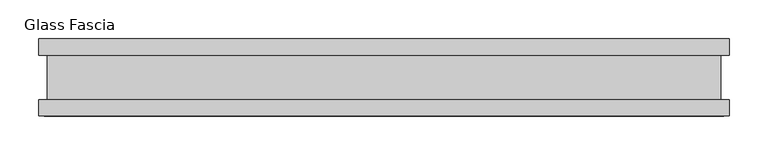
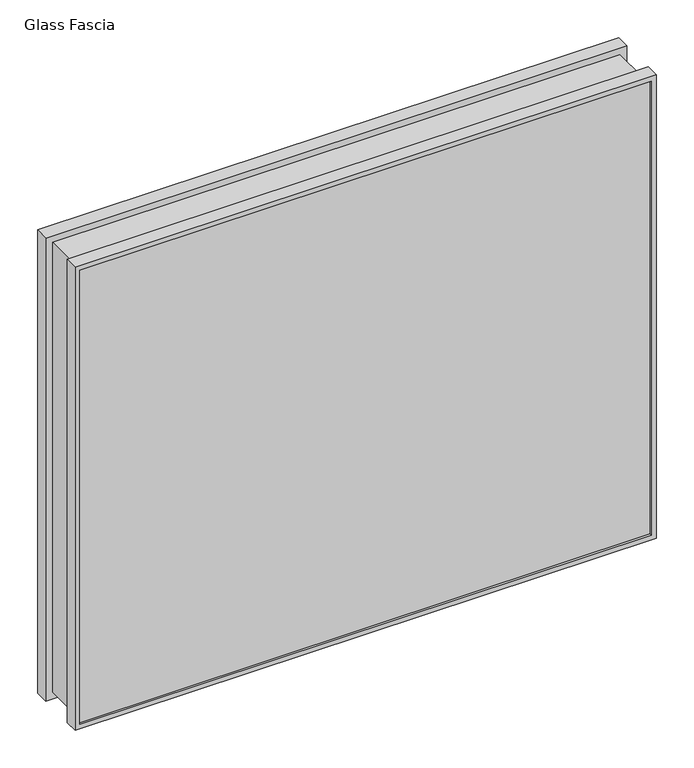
"""IFC4 building model written with IfcOpenShell, lengths in millimetres: proxy geometry, Panel-Fascia-Teknion-Altos-Glass : Glass Fascia."""

from ifc_helpers import new_model, si_unit, frame, origin, place, context, project, spatial, polyline, ellipse_curve, outline, extrude, source, transform, mapped, element, save
from ifc_brep_helpers import plane_surface, cylinder_surface, advanced_brep


def glass_fascia_921fc641(model_context):
    return source(origin(), model_context, "Body", "SolidModel", [
        advanced_brep(
        [(447.0670757, 50.0558594, 756.793), (447.0670757, 28.2698798, 756.793), (447.0670757, 28.2698798, 3.175), (447.0670757, 50.0558594, 3.175), (439.6318679, 47.1322551, 749.3577922), (439.6318679, 50.0558594, 749.3577922), (439.6318679, 50.0558594, 10.6102078), (439.6318679, 47.1322551, 10.6102078), (444.9145495, 41.1791301, 754.6404737), (444.9145495, 47.1322551, 754.6404737), (444.9145495, 47.1322551, 5.3275263), (444.9145495, 41.1791301, 5.3275263), (439.1096603, -40.9277344, 748.8355845), (439.1096603, 41.1791301, 748.8355845), (439.1096603, 41.1791301, 11.1324155), (439.1096603, -40.9277344, 11.1324155), (444.9145495, -46.8808594, 754.6404737), (444.9145495, -40.9277344, 754.6404737), (444.9145495, -40.9277344, 5.3275263), (444.9145495, -46.8808594, 5.3275263), (439.6318679, -50.0558594, 749.3577922), (439.6318679, -46.8808594, 749.3577922), (439.6318679, -46.8808594, 10.6102078), (439.6318679, -50.0558594, 10.6102078), (447.0670757, -28.8801202, 756.793), (447.0670757, -50.0558594, 756.793), (447.0670757, -50.0558594, 3.175), (447.0670757, -28.8801202, 3.175), (436.2152344, 28.2698798, 745.9411586), (436.2152344, -28.8801202, 745.9411586), (436.2152344, -28.8801202, 14.0268414), (436.2152344, 28.2698798, 14.0268414), (-447.0670757, 28.2698798, 3.175), (-447.0670757, 50.0558594, 3.175), (-439.6318679, 50.0558594, 10.6102078), (-439.6318679, 47.1322551, 10.6102078), (-444.9145495, 47.1322551, 5.3275263), (-444.9145495, 41.1791301, 5.3275263), (-439.1096603, 41.1791301, 11.1324155), (-439.1096603, -40.9277344, 11.1324155), (-444.9145495, -40.9277344, 5.3275263), (-444.9145495, -46.8808594, 5.3275263), (-439.6318679, -46.8808594, 10.6102078), (-439.6318679, -50.0558594, 10.6102078), (-447.0670757, -50.0558594, 3.175), (-447.0670757, -28.8801202, 3.175), (-436.2152344, -28.8801202, 14.0268414), (-436.2152344, 28.2698798, 14.0268414), (-447.0670757, 28.2698798, 756.793), (-447.0670757, 50.0558594, 756.793), (-439.6318679, 50.0558594, 749.3577922), (-439.6318679, 47.1322551, 749.3577922), (-444.9145495, 47.1322551, 754.6404737), (-444.9145495, 41.1791301, 754.6404737), (-439.1096603, 41.1791301, 748.8355845), (-439.1096603, -40.9277344, 748.8355845), (-444.9145495, -40.9277344, 754.6404737), (-444.9145495, -46.8808594, 754.6404737), (-439.6318679, -46.8808594, 749.3577922), (-439.6318679, -50.0558594, 749.3577922), (-447.0670757, -50.0558594, 756.793), (-447.0670757, -28.8801202, 756.793), (-436.2152344, -28.8801202, 745.9411586), (-436.2152344, 28.2698798, 745.9411586)],
        [
            (0, 1),
            (1, 2),
            (2, 3),
            (3, 0),
            (4, 5),
            (5, 6),
            (6, 7),
            (7, 4),
            (8, 9),
            (9, 10),
            (10, 11),
            (11, 8),
            (12, 13, ellipse_curve(frame((478.4955026, 0.1256979, 788.2214268), z_axis=(0.7071067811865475, 0.0, -0.7071067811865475), x_axis=(0.7071067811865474, 0.0, 0.7071067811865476)), 80.4565581, 56.8913778)),
            (13, 14),
            (14, 15, ellipse_curve(frame((478.4955026, 0.1256979, -28.2534268), z_axis=(0.7071067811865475, 0.0, 0.7071067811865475), x_axis=(-0.7071067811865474, 0.0, 0.7071067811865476)), 80.4565581, 56.8913778)),
            (15, 12),
            (16, 17),
            (17, 18),
            (18, 19),
            (19, 16),
            (20, 21),
            (21, 22),
            (22, 23),
            (23, 20),
            (24, 25),
            (25, 26),
            (26, 27),
            (27, 24),
            (28, 29),
            (29, 30),
            (30, 31),
            (31, 28),
            (2, 32),
            (32, 33),
            (33, 3),
            (6, 34),
            (34, 35),
            (35, 7),
            (10, 36),
            (36, 37),
            (37, 11),
            (14, 38),
            (38, 39, ellipse_curve(frame((-478.4955026, 0.1256979, -28.2534268), z_axis=(0.7071067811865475, 0.0, -0.7071067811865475), x_axis=(0.7071067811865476, 0.0, 0.7071067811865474)), 80.4565581, 56.8913778)),
            (39, 15),
            (18, 40),
            (40, 41),
            (41, 19),
            (22, 42),
            (42, 43),
            (43, 23),
            (26, 44),
            (44, 45),
            (45, 27),
            (30, 46),
            (46, 47),
            (47, 31),
            (32, 48),
            (48, 49),
            (49, 33),
            (34, 50),
            (50, 51),
            (51, 35),
            (36, 52),
            (52, 53),
            (53, 37),
            (38, 54),
            (54, 55, ellipse_curve(frame((-478.4955026, 0.1256979, 788.2214268), z_axis=(-0.7071067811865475, 0.0, -0.7071067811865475), x_axis=(0.7071067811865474, 0.0, -0.7071067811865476)), 80.4565581, 56.8913778)),
            (55, 39),
            (40, 56),
            (56, 57),
            (57, 41),
            (42, 58),
            (58, 59),
            (59, 43),
            (44, 60),
            (60, 61),
            (61, 45),
            (46, 62),
            (62, 63),
            (63, 47),
            (48, 1),
            (0, 49),
            (5, 50),
            (4, 51),
            (9, 52),
            (8, 53),
            (13, 54),
            (12, 55),
            (17, 56),
            (16, 57),
            (21, 58),
            (20, 59),
            (25, 60),
            (24, 61),
            (29, 62),
            (28, 63),
        ],
        [
            plane_surface(frame((447.0670757, 28.2698798, 756.793), z_axis=(1.0, 0.0, 0.0), x_axis=(0.0, 0.0, -1.0))),
            plane_surface(frame((439.6318679, 50.0558594, 749.3577922), z_axis=(-1.0, 0.0, 0.0), x_axis=(0.0, 0.0, -1.0))),
            plane_surface(frame((444.9145495, 47.1322551, 754.6404737), z_axis=(-1.0, 0.0, 0.0), x_axis=(0.0, 0.0, -1.0))),
            cylinder_surface(frame((478.4955026, 0.1256979, 756.793), z_axis=(0.0, 0.0, 1.0), x_axis=(1.0, 0.0, 0.0)), 56.8913778),
            plane_surface(frame((444.9145495, -40.9277344, 754.6404737), z_axis=(-1.0, 0.0, 0.0), x_axis=(0.0, 0.0, -1.0))),
            plane_surface(frame((439.6318679, -46.8808594, 749.3577922), z_axis=(-1.0, 0.0, 0.0), x_axis=(0.0, 0.0, -1.0))),
            plane_surface(frame((447.0670757, -50.0558594, 756.793), z_axis=(1.0, 0.0, 0.0), x_axis=(0.0, 0.0, -1.0))),
            plane_surface(frame((436.2152344, -28.8801202, 745.9411586), z_axis=(1.0, 0.0, 0.0), x_axis=(0.0, 0.0, -1.0))),
            plane_surface(frame((447.0670757, 28.2698798, 3.175), z_axis=(0.0, 0.0, -1.0), x_axis=(-1.0, 0.0, 0.0))),
            plane_surface(frame((439.6318679, 50.0558594, 10.6102078), z_axis=(0.0, 0.0, 1.0), x_axis=(-1.0, 0.0, 0.0))),
            plane_surface(frame((444.9145495, 47.1322551, 5.3275263), z_axis=(0.0, 0.0, 1.0), x_axis=(-1.0, 0.0, 0.0))),
            cylinder_surface(frame((447.0670757, 0.1256979, -28.2534268), z_axis=(1.0, 0.0, 0.0), x_axis=(0.0, 0.0, -1.0)), 56.8913778),
            plane_surface(frame((444.9145495, -40.9277344, 5.3275263), z_axis=(0.0, 0.0, 1.0), x_axis=(-1.0, 0.0, 0.0))),
            plane_surface(frame((439.6318679, -46.8808594, 10.6102078), z_axis=(0.0, 0.0, 1.0), x_axis=(-1.0, 0.0, 0.0))),
            plane_surface(frame((447.0670757, -50.0558594, 3.175), z_axis=(0.0, 0.0, -1.0), x_axis=(-1.0, 0.0, 0.0))),
            plane_surface(frame((436.2152344, -28.8801202, 14.0268414), z_axis=(0.0, 0.0, -1.0), x_axis=(-1.0, 0.0, 0.0))),
            plane_surface(frame((-447.0670757, 28.2698798, 3.175), z_axis=(-1.0, 0.0, 0.0), x_axis=(0.0, 0.0, 1.0))),
            plane_surface(frame((-439.6318679, 50.0558594, 10.6102078), z_axis=(1.0, 0.0, 0.0), x_axis=(0.0, 0.0, 1.0))),
            plane_surface(frame((-444.9145495, 47.1322551, 5.3275263), z_axis=(1.0, 0.0, 0.0), x_axis=(0.0, 0.0, 1.0))),
            cylinder_surface(frame((-478.4955026, 0.1256979, 3.175), z_axis=(0.0, 0.0, -1.0), x_axis=(-1.0, 0.0, 0.0)), 56.8913778),
            plane_surface(frame((-444.9145495, -40.9277344, 5.3275263), z_axis=(1.0, 0.0, 0.0), x_axis=(0.0, 0.0, 1.0))),
            plane_surface(frame((-439.6318679, -46.8808594, 10.6102078), z_axis=(1.0, 0.0, 0.0), x_axis=(0.0, 0.0, 1.0))),
            plane_surface(frame((-447.0670757, -50.0558594, 3.175), z_axis=(-1.0, 0.0, 0.0), x_axis=(0.0, 0.0, 1.0))),
            plane_surface(frame((-436.2152344, -28.8801202, 14.0268414), z_axis=(-1.0, 0.0, 0.0), x_axis=(0.0, 0.0, 1.0))),
            plane_surface(frame((-447.0670757, 28.2698798, 756.793), z_axis=(0.0, 0.0, 1.0), x_axis=(1.0, 0.0, 0.0))),
            plane_surface(frame((-447.0670757, 50.0558594, 756.793), z_axis=(0.0, 1.0, 0.0), x_axis=(1.0, 0.0, 0.0))),
            plane_surface(frame((-439.6318679, 50.0558594, 749.3577922), z_axis=(0.0, 0.0, -1.0), x_axis=(1.0, 0.0, 0.0))),
            plane_surface(frame((-439.6318679, 47.1322551, 749.3577922), z_axis=(0.0, -1.0, 0.0), x_axis=(1.0, 0.0, 0.0))),
            plane_surface(frame((-444.9145495, 47.1322551, 754.6404737), z_axis=(0.0, 0.0, -1.0), x_axis=(1.0, 0.0, 0.0))),
            plane_surface(frame((-444.9145495, 41.1791301, 754.6404737), z_axis=(0.0, 1.0, 0.0), x_axis=(1.0, 0.0, 0.0))),
            cylinder_surface(frame((-447.0670757, 0.1256979, 788.2214268), z_axis=(-1.0, 0.0, 0.0), x_axis=(0.0, 0.0, 1.0)), 56.8913778),
            plane_surface(frame((-439.1096603, -40.9277344, 748.8355845), z_axis=(0.0, -1.0, 0.0), x_axis=(1.0, 0.0, 0.0))),
            plane_surface(frame((-444.9145495, -40.9277344, 754.6404737), z_axis=(0.0, 0.0, -1.0), x_axis=(1.0, 0.0, 0.0))),
            plane_surface(frame((-444.9145495, -46.8808594, 754.6404737), z_axis=(0.0, 1.0, 0.0), x_axis=(1.0, 0.0, 0.0))),
            plane_surface(frame((-439.6318679, -46.8808594, 749.3577922), z_axis=(0.0, 0.0, -1.0), x_axis=(1.0, 0.0, 0.0))),
            plane_surface(frame((-439.6318679, -50.0558594, 749.3577922), z_axis=(0.0, -1.0, 0.0), x_axis=(1.0, 0.0, 0.0))),
            plane_surface(frame((-447.0670757, -50.0558594, 756.793), z_axis=(0.0, 0.0, 1.0), x_axis=(1.0, 0.0, 0.0))),
            plane_surface(frame((-447.0670757, -28.8801202, 756.793), z_axis=(0.0, 1.0, 0.0), x_axis=(1.0, 0.0, 0.0))),
            plane_surface(frame((-436.2152344, -28.8801202, 745.9411586), z_axis=(0.0, 0.0, 1.0), x_axis=(1.0, 0.0, 0.0))),
            plane_surface(frame((-436.2152344, 28.2698798, 745.9411586), z_axis=(0.0, -1.0, 0.0), x_axis=(1.0, 0.0, 0.0))),
        ],
        [
            (0, [[1, 2, 3, 4]]),
            (1, [[5, 6, 7, 8]]),
            (2, [[9, 10, 11, 12]]),
            (3, [[13, 14, 15, 16]]),
            (4, [[17, 18, 19, 20]]),
            (5, [[21, 22, 23, 24]]),
            (6, [[25, 26, 27, 28]]),
            (7, [[29, 30, 31, 32]]),
            (8, [[-3, 33, 34, 35]]),
            (9, [[-7, 36, 37, 38]]),
            (10, [[-11, 39, 40, 41]]),
            (11, [[-15, 42, 43, 44]]),
            (12, [[-19, 45, 46, 47]]),
            (13, [[-23, 48, 49, 50]]),
            (14, [[-27, 51, 52, 53]]),
            (15, [[-31, 54, 55, 56]]),
            (16, [[-34, 57, 58, 59]]),
            (17, [[-37, 60, 61, 62]]),
            (18, [[-40, 63, 64, 65]]),
            (19, [[-43, 66, 67, 68]]),
            (20, [[-46, 69, 70, 71]]),
            (21, [[-49, 72, 73, 74]]),
            (22, [[-52, 75, 76, 77]]),
            (23, [[-55, 78, 79, 80]]),
            (24, [[-58, 81, -1, 82]]),
            (25, [[-35, -59, -82, -4], [83, -60, -36, -6]]),
            (26, [[-61, -83, -5, 84]]),
            (27, [[85, -63, -39, -10], [-38, -62, -84, -8]]),
            (28, [[-64, -85, -9, 86]]),
            (29, [[-41, -65, -86, -12], [87, -66, -42, -14]]),
            (30, [[-67, -87, -13, 88]]),
            (31, [[89, -69, -45, -18], [-44, -68, -88, -16]]),
            (32, [[-70, -89, -17, 90]]),
            (33, [[-47, -71, -90, -20], [91, -72, -48, -22]]),
            (34, [[-73, -91, -21, 92]]),
            (35, [[93, -75, -51, -26], [-50, -74, -92, -24]]),
            (36, [[-76, -93, -25, 94]]),
            (37, [[-53, -77, -94, -28], [95, -78, -54, -30]]),
            (38, [[-79, -95, -29, 96]]),
            (39, [[-81, -57, -33, -2], [-56, -80, -96, -32]]),
        ],
    ),
        extrude(outline(polyline([(444.9145495, -40.9277344), (444.9145495, -46.8808594), (-444.9145495, -46.8808594), (-444.9145495, -40.9277344), (444.9145495, -40.9277344)])), frame((0.0, 0.0, 5.3275263), z_axis=(0.0, 0.0, 1.0), x_axis=(1.0, 0.0, 0.0)), (0.0, 0.0, 1.0), 748.818928),
        extrude(outline(polyline([(444.9145495, 41.1791301), (-444.9145495, 41.1791301), (-444.9145495, 47.1322551), (444.9145495, 47.1322551), (444.9145495, 41.1791301)])), frame((0.0, 0.0, 5.3275263), z_axis=(0.0, 0.0, 1.0), x_axis=(1.0, 0.0, 0.0)), (0.0, 0.0, 1.0), 748.818928),
    ])


if __name__ == "__main__":
    model = new_model("IFC4")
    model_context = context("Model", 3, world=origin())
    ifc_project = project(units=[si_unit("LENGTHUNIT", "METRE", prefix="MILLI")], contexts=[model_context])
    site = spatial("IfcSite", under=ifc_project)
    building = spatial("IfcBuilding", under=site)
    placement = place(None, origin())
    glass_fascia_shape = glass_fascia_921fc641(model_context)
    element("IfcBuildingElementProxy", 1, Name="Panel-Fascia-Teknion-Altos-Glass : Glass Fascia", ObjectType="Panel-Fascia-Teknion-Altos-Glass : Glass Fascia", at=placement, inside=building, context=model_context, shape_type="MappedRepresentation", body=[
        mapped(glass_fascia_shape, transform((0.0, 0.0, 0.0), x_axis=(1.0, 0.0, 0.0), y_axis=(0.0, 1.0, 0.0), z_axis=(0.0, 0.0, 1.0))),
    ])
    save(model, "model.ifc")
